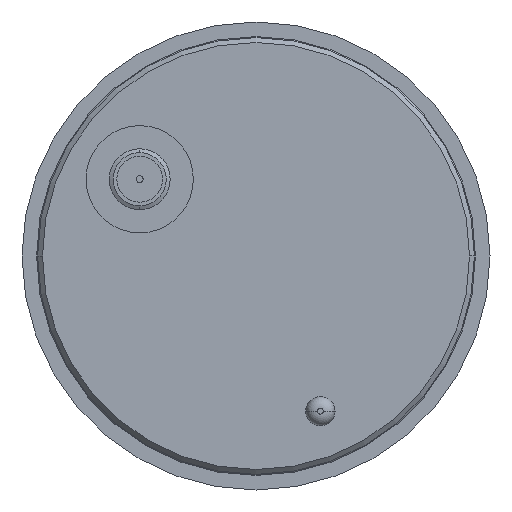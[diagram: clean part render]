
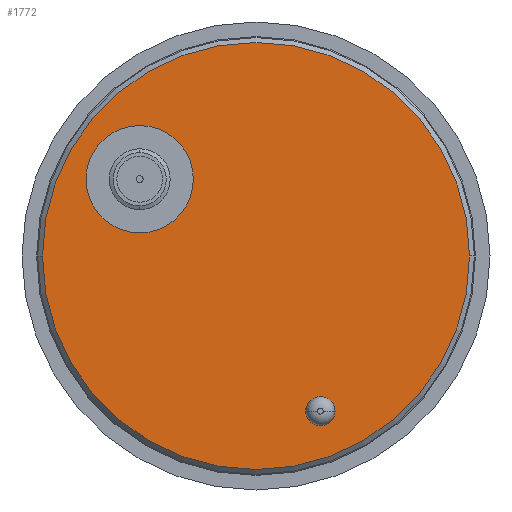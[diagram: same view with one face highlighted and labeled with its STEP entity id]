
A CAD part, front view. The second image highlights one B-rep face of the part: STEP entity #1772.
In plain terms, the highlighted planar face has unit normal (0, -1, 0).
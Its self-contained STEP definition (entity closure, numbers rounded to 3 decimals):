
#121 = EDGE_LOOP ( 'NONE', ( #584, #585 ) ) ;
#122 = EDGE_LOOP ( 'NONE', ( #586, #587 ) ) ;
#127 = EDGE_LOOP ( 'NONE', ( #588, #589 ) ) ;
#584 = ORIENTED_EDGE ( 'NONE', *, *, #1498, .T. ) ;
#585 = ORIENTED_EDGE ( 'NONE', *, *, #1571, .T. ) ;
#586 = ORIENTED_EDGE ( 'NONE', *, *, #1540, .F. ) ;
#587 = ORIENTED_EDGE ( 'NONE', *, *, #1572, .F. ) ;
#588 = ORIENTED_EDGE ( 'NONE', *, *, #1505, .T. ) ;
#589 = ORIENTED_EDGE ( 'NONE', *, *, #1573, .T. ) ;
#807 = VERTEX_POINT ( 'NONE', #1306 ) ;
#808 = VERTEX_POINT ( 'NONE', #1307 ) ;
#813 = VERTEX_POINT ( 'NONE', #1312 ) ;
#814 = VERTEX_POINT ( 'NONE', #1313 ) ;
#836 = VERTEX_POINT ( 'NONE', #1335 ) ;
#844 = VERTEX_POINT ( 'NONE', #1343 ) ;
#1306 = CARTESIAN_POINT ( 'NONE',  ( 8.104, 0., -15.92 ) ) ;
#1307 = CARTESIAN_POINT ( 'NONE',  ( 5.104, 0., -15.92 ) ) ;
#1312 = CARTESIAN_POINT ( 'NONE',  ( -11.929, 0., 2.375 ) ) ;
#1313 = CARTESIAN_POINT ( 'NONE',  ( -11.929, 0., 13.375 ) ) ;
#1335 = CARTESIAN_POINT ( 'NONE',  ( -21.9, 0., 0. ) ) ;
#1343 = CARTESIAN_POINT ( 'NONE',  ( 21.9, 0., 0. ) ) ;
#1498 = EDGE_CURVE ( 'NONE', #808, #807, #2493, .T. ) ;
#1505 = EDGE_CURVE ( 'NONE', #813, #814, #2503, .T. ) ;
#1540 = EDGE_CURVE ( 'NONE', #836, #844, #2556, .T. ) ;
#1571 = EDGE_CURVE ( 'NONE', #807, #808, #2602, .T. ) ;
#1572 = EDGE_CURVE ( 'NONE', #844, #836, #2600, .T. ) ;
#1573 = EDGE_CURVE ( 'NONE', #814, #813, #2604, .T. ) ;
#1772 = ADVANCED_FACE ( 'NONE', ( #4721, #4723, #4725 ), #4726, .F. ) ;
#2326 = CARTESIAN_POINT ( 'NONE',  ( 6.604, 0., -15.92 ) ) ;
#2327 = DIRECTION ( 'NONE',  ( 0., 1., 0. ) ) ;
#2328 = DIRECTION ( 'NONE',  ( -1., 0., 0. ) ) ;
#2493 = CIRCLE ( 'NONE', #2495, 1.5 ) ;
#2495 = AXIS2_PLACEMENT_3D ( 'NONE', #2326, #2327, #2328 ) ;
#2503 = CIRCLE ( 'NONE', #2505, 5.5 ) ;
#2505 = AXIS2_PLACEMENT_3D ( 'NONE', #3378, #3379, #3380 ) ;
#2556 = CIRCLE ( 'NONE', #2562, 21.9 ) ;
#2562 = AXIS2_PLACEMENT_3D ( 'NONE', #3483, #3484, #3485 ) ;
#2600 = CIRCLE ( 'NONE', #2605, 21.9 ) ;
#2602 = CIRCLE ( 'NONE', #2603, 1.5 ) ;
#2603 = AXIS2_PLACEMENT_3D ( 'NONE', #3584, #3585, #3586 ) ;
#2604 = CIRCLE ( 'NONE', #2607, 5.5 ) ;
#2605 = AXIS2_PLACEMENT_3D ( 'NONE', #3587, #3588, #3589 ) ;
#2607 = AXIS2_PLACEMENT_3D ( 'NONE', #3590, #3591, #3592 ) ;
#3081 = AXIS2_PLACEMENT_3D ( 'NONE', #4722, #4711, #4727 ) ;
#3378 = CARTESIAN_POINT ( 'NONE',  ( -11.929, 0., 7.875 ) ) ;
#3379 = DIRECTION ( 'NONE',  ( 0., 1., 0. ) ) ;
#3380 = DIRECTION ( 'NONE',  ( 0., 0., 1. ) ) ;
#3483 = CARTESIAN_POINT ( 'NONE',  ( 0., 0., 0. ) ) ;
#3484 = DIRECTION ( 'NONE',  ( 0., 1., 0. ) ) ;
#3485 = DIRECTION ( 'NONE',  ( -1., 0., 0. ) ) ;
#3584 = CARTESIAN_POINT ( 'NONE',  ( 6.604, 0., -15.92 ) ) ;
#3585 = DIRECTION ( 'NONE',  ( 0., 1., 0. ) ) ;
#3586 = DIRECTION ( 'NONE',  ( -1., 0., 0. ) ) ;
#3587 = CARTESIAN_POINT ( 'NONE',  ( 0., 0., 0. ) ) ;
#3588 = DIRECTION ( 'NONE',  ( 0., 1., 0. ) ) ;
#3589 = DIRECTION ( 'NONE',  ( -1., 0., 0. ) ) ;
#3590 = CARTESIAN_POINT ( 'NONE',  ( -11.929, 0., 7.875 ) ) ;
#3591 = DIRECTION ( 'NONE',  ( 0., 1., 0. ) ) ;
#3592 = DIRECTION ( 'NONE',  ( 0., 0., 1. ) ) ;
#4711 = DIRECTION ( 'NONE',  ( 0., 1., 0. ) ) ;
#4721 = FACE_BOUND ( 'NONE', #121, .T. ) ;
#4722 = CARTESIAN_POINT ( 'NONE',  ( -5.237, 0., 0. ) ) ;
#4723 = FACE_OUTER_BOUND ( 'NONE', #122, .T. ) ;
#4725 = FACE_BOUND ( 'NONE', #127, .T. ) ;
#4726 = PLANE ( 'NONE',  #3081 ) ;
#4727 = DIRECTION ( 'NONE',  ( -1., 0., 0. ) ) ;
